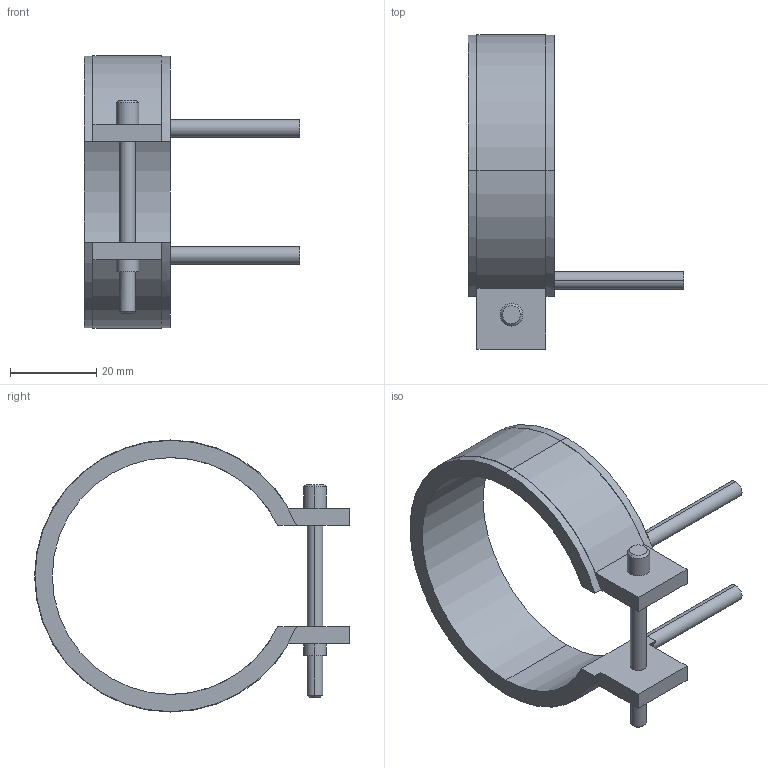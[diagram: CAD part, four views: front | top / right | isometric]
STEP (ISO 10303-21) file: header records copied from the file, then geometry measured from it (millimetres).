
FILE_DESCRIPTION(('CATIA V5 STEP Exchange'),'2;1');
FILE_NAME('C:\Users\Utente\Desktop\IO LAVORO\3D X SITO CF\X SITO\PLASTICA\RF2\14055020.stp','2021-04-01T09:38:15+00:00',('none'),('none'),'CATIA Version 5 Release 20 GA (IN-10)','CATIA V5 STEP AP203','none');
FILE_SCHEMA(('CONFIG_CONTROL_DESIGN'));
Length unit declared in the file: millimetre
Products named in the file (1): 14055020
Bounding box: 50 x 73.1 x 63.2 mm (x, y, z)
Volume: 16125.9 mm3; surface area: 10236.6 mm2
Topology: 1 solids, 1 shells, 45 faces, 116 edges, 76 vertices
Faces by surface type: cylinder 24, plane 17, cone 4
Entity records: 1400 total; most frequent: CARTESIAN_POINT 274, ORIENTED_EDGE 232, DIRECTION 196, EDGE_CURVE 116, AXIS2_PLACEMENT_3D 104, VERTEX_POINT 76, CIRCLE 62, VECTOR 52
